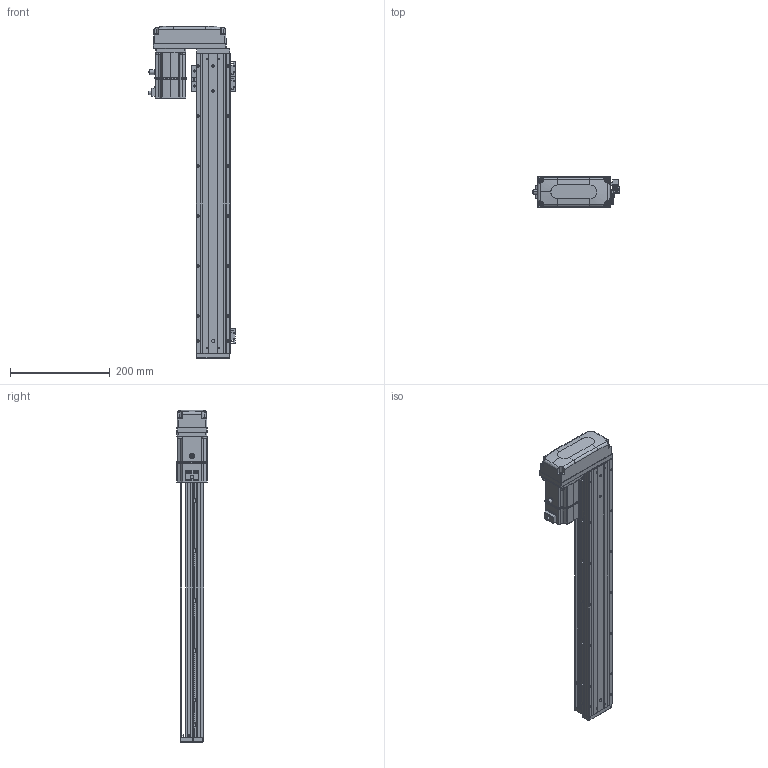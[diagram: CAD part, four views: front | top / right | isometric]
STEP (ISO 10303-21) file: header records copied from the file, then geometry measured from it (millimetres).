
FILE_DESCRIPTION (( 'STEP AP203' ), '1' );
FILE_NAME ('KTHA60-500-BR-M20-C4L.step', '2022-12-16T01:39:36', ( '微软用户' ), ( '微软中国' ), 'SwSTEP 2.0', 'SolidWorks 2020', '' );
FILE_SCHEMA (( 'CONFIG_CONTROL_DESIGN' ));
Length unit declared in the file: millimetre
Products named in the file (17): GBT 70.1-M4×16; _X2_4E0983F1_X0_200W_1; KTHA60-005; GBT77-2000M3-3; KTHA60-500-BR-M20-C4L; GB¨uT 70.2-M3¡Á5_M3¡Á6; GBT 70.1-M3℅6; GBT 70.3-M3℅6; CTHA60-016; EE_SX911P_R; KTHA60-002; CTHA60-017; BTH80-026; KTHA60-001_600; CTHA60-021; CTHA60-006-2_CTHA60-006-2; KTHA60-004
Assembly tree (51 placements, depth 2):
  KTHA60-500-BR-M20-C4L
    KTHA60-001_600
    KTHA60-004
    KTHA60-005
    GB¨uT 70.2-M3¡Á5_M3¡Á6  x6
    GBT 70.3-M3℅6  x4
    EE_SX911P_R  x3
    CTHA60-017  x3
    CTHA60-021  x2
    GBT 70.1-M4×16  x8
    GBT77-2000M3-3  x6
    GBT 70.1-M3℅6  x10
    CTHA60-016  x2
    KTHA60-002
    BTH80-026
    CTHA60-006-2_CTHA60-006-2
    _X2_4E0983F1_X0_200W_1
Bounding box: 173.02 x 62.42 x 664 mm (x, y, z)
Volume: 1476674 mm3; surface area: 390791 mm2
Topology: 54 solids, 54 shells, 2448 faces, 5829 edges, 3586 vertices
Faces by surface type: plane 1297, cylinder 650, cone 284, bspline 109, torus 92, sphere 16
Entity records: 45532 total; most frequent: CARTESIAN_POINT 10594, ORIENTED_EDGE 6706, DIRECTION 6698, EDGE_CURVE 3353, AXIS2_PLACEMENT_3D 2309, VERTEX_POINT 2095, VECTOR 2080, LINE 2080
